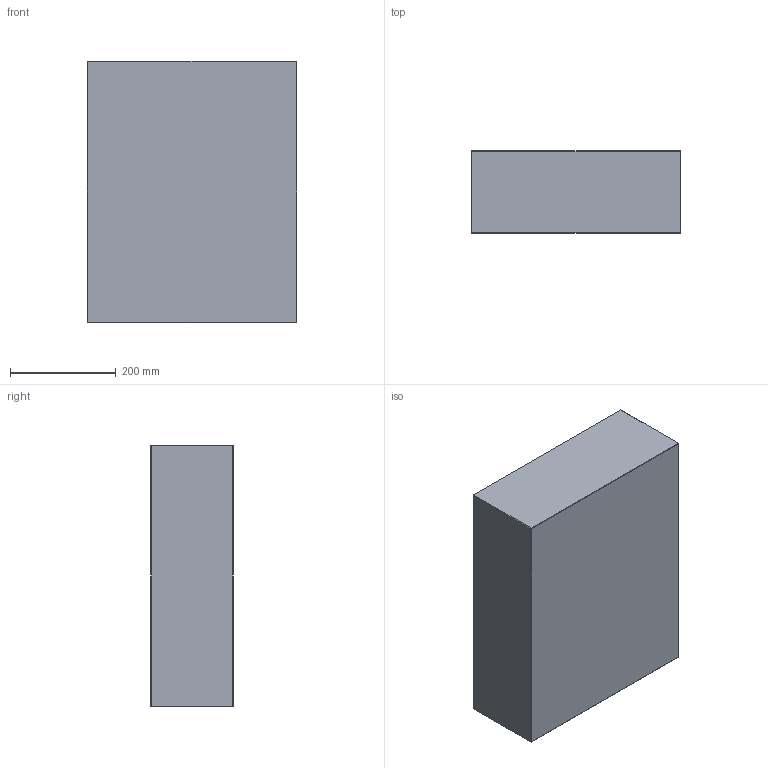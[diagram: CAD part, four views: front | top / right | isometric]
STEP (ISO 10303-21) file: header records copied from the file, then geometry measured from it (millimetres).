
FILE_DESCRIPTION (( 'STEP AP214' ), '1' );
FILE_NAME ('PC-P-396x496x156.STEP', '2020-04-01T10:45:21', ( 'August' ), ( '' ), 'SwSTEP 2.0', 'SolidWorks 2018', '' );
FILE_SCHEMA (( 'AUTOMOTIVE_DESIGN' ));
Length unit declared in the file: millimetre
Products named in the file (1): PC-P-396x496x156
Bounding box: 396 x 156 x 496 mm (x, y, z)
Volume: 30638805.3 mm3; surface area: 668677.4 mm2
Topology: 1 solids, 1 shells, 26 faces, 48 edges, 24 vertices
Faces by surface type: plane 26
Entity records: 634 total; most frequent: DIRECTION 102, CARTESIAN_POINT 99, ORIENTED_EDGE 96, EDGE_CURVE 48, LINE 48, VECTOR 48, AXIS2_PLACEMENT_3D 27, PLANE 26
